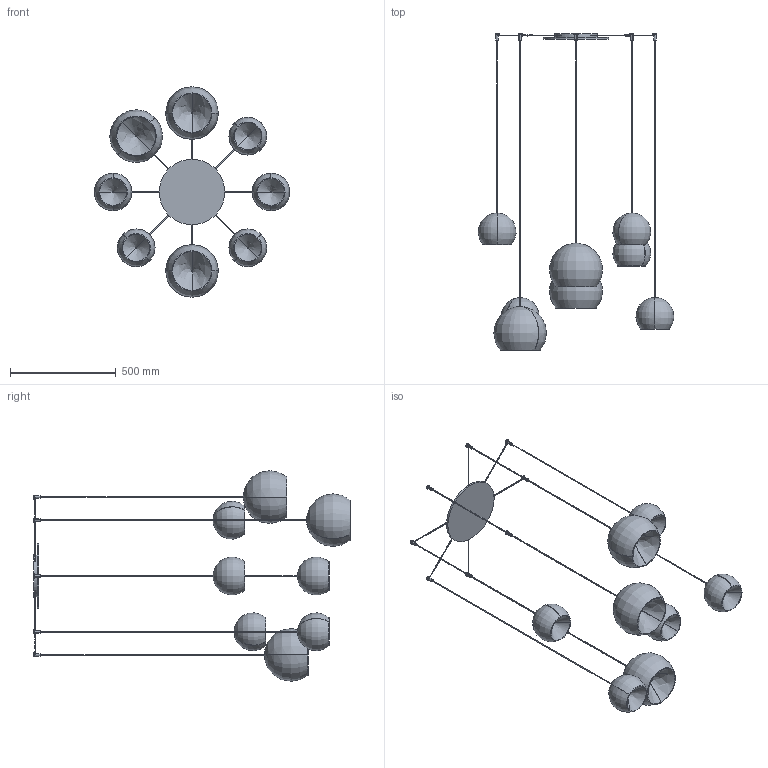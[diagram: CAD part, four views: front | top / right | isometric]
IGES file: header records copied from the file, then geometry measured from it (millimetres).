
Start section: SolidWorks IGES file using analytic representation for surfaces
Global section: file name: Y:\eforma\TECNICO\SOLIDWORKS\E-FORMA\09-LAMPADE\CHERRY MIX\08 modelli 3D web\CRM08-00-CHERRY MIX_8 SOSPENSIONE.IGS; native system: SolidWorks 2022; preprocessor: SolidWorks 2022; author: eforma.tech; date: 240801.144133; units: millimetre
Bounding box: 927.44 x 1500 x 997.99 mm (x, y, z)
Volume: 3375438 mm3; surface area: 2578718.2 mm2
Topology: 41 solids, 41 shells, 304 faces, 643 edges, 406 vertices
Faces by surface type: revolution 211, plane 93
